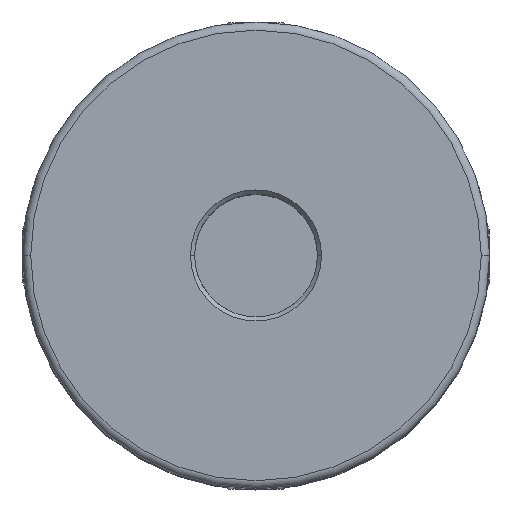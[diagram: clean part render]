
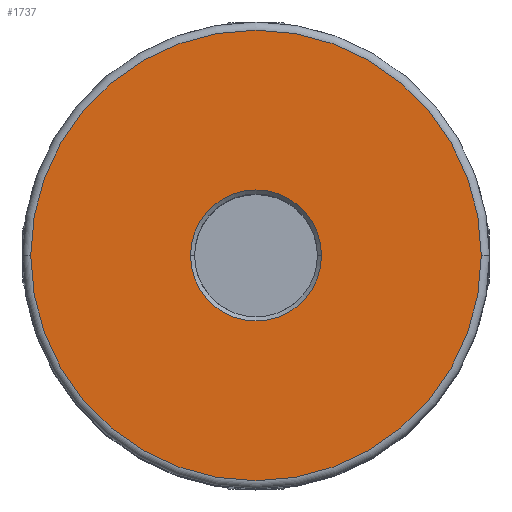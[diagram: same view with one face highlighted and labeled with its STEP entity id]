
A CAD part, top view. The second image highlights one B-rep face of the part: STEP entity #1737.
In plain terms, the highlighted planar face has unit normal (0, 0, 1).
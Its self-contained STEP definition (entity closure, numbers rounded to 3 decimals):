
#507 = AXIS2_PLACEMENT_3D ( 'NONE', #6840, #6833, #6832 ) ;
#668 = EDGE_CURVE ( 'NONE', #3524, #2735, #6221, .T. ) ;
#678 = EDGE_CURVE ( 'NONE', #3716, #3628, #6205, .T. ) ;
#751 = AXIS2_PLACEMENT_3D ( 'NONE', #5352, #5353, #5351 ) ;
#771 = AXIS2_PLACEMENT_3D ( 'NONE', #5733, #5437, #5217 ) ;
#785 = AXIS2_PLACEMENT_3D ( 'NONE', #3838, #3836, #3819 ) ;
#787 = AXIS2_PLACEMENT_3D ( 'NONE', #3899, #3898, #3897 ) ;
#827 = EDGE_CURVE ( 'NONE', #2735, #3524, #6148, .T. ) ;
#879 = EDGE_CURVE ( 'NONE', #3628, #3716, #4791, .T. ) ;
#1737 = ADVANCED_FACE ( 'NONE', ( #3330, #3235 ), #6836, .F. ) ;
#2477 = CARTESIAN_POINT ( 'NONE',  ( -8., 0., 38.1 ) ) ;
#2562 = CARTESIAN_POINT ( 'NONE',  ( 8., 0., 38.1 ) ) ;
#2590 = CARTESIAN_POINT ( 'NONE',  ( -27.5, 0., 38.1 ) ) ;
#2735 = VERTEX_POINT ( 'NONE', #2799 ) ;
#2799 = CARTESIAN_POINT ( 'NONE',  ( 27.5, 0., 38.1 ) ) ;
#3235 = FACE_OUTER_BOUND ( 'NONE', #6514, .T. ) ;
#3330 = FACE_BOUND ( 'NONE', #6711, .T. ) ;
#3455 = ORIENTED_EDGE ( 'NONE', *, *, #879, .T. ) ;
#3467 = ORIENTED_EDGE ( 'NONE', *, *, #678, .T. ) ;
#3482 = ORIENTED_EDGE ( 'NONE', *, *, #827, .T. ) ;
#3486 = ORIENTED_EDGE ( 'NONE', *, *, #668, .T. ) ;
#3524 = VERTEX_POINT ( 'NONE', #2590 ) ;
#3628 = VERTEX_POINT ( 'NONE', #2562 ) ;
#3716 = VERTEX_POINT ( 'NONE', #2477 ) ;
#3819 = DIRECTION ( 'NONE',  ( 0., 1., 0. ) ) ;
#3836 = DIRECTION ( 'NONE',  ( 0., 0., -1. ) ) ;
#3838 = CARTESIAN_POINT ( 'NONE',  ( 0., 0., 38.1 ) ) ;
#3897 = DIRECTION ( 'NONE',  ( -1., 0., 0. ) ) ;
#3898 = DIRECTION ( 'NONE',  ( 0., 0., 1. ) ) ;
#3899 = CARTESIAN_POINT ( 'NONE',  ( 0., 0., 38.1 ) ) ;
#4791 = CIRCLE ( 'NONE', #751, 8. ) ;
#5217 = DIRECTION ( 'NONE',  ( -1., 0., 0. ) ) ;
#5351 = DIRECTION ( 'NONE',  ( 0., 1., 0. ) ) ;
#5352 = CARTESIAN_POINT ( 'NONE',  ( 0., 0., 38.1 ) ) ;
#5353 = DIRECTION ( 'NONE',  ( 0., 0., -1. ) ) ;
#5437 = DIRECTION ( 'NONE',  ( 0., 0., 1. ) ) ;
#5733 = CARTESIAN_POINT ( 'NONE',  ( 0., 0., 38.1 ) ) ;
#6148 = CIRCLE ( 'NONE', #771, 27.5 ) ;
#6205 = CIRCLE ( 'NONE', #785, 8. ) ;
#6221 = CIRCLE ( 'NONE', #787, 27.5 ) ;
#6514 = EDGE_LOOP ( 'NONE', ( #3486, #3482 ) ) ;
#6711 = EDGE_LOOP ( 'NONE', ( #3455, #3467 ) ) ;
#6832 = DIRECTION ( 'NONE',  ( -1., 0., 0. ) ) ;
#6833 = DIRECTION ( 'NONE',  ( 0., 0., -1. ) ) ;
#6836 = PLANE ( 'NONE',  #507 ) ;
#6840 = CARTESIAN_POINT ( 'NONE',  ( 0., 0., 38.1 ) ) ;
